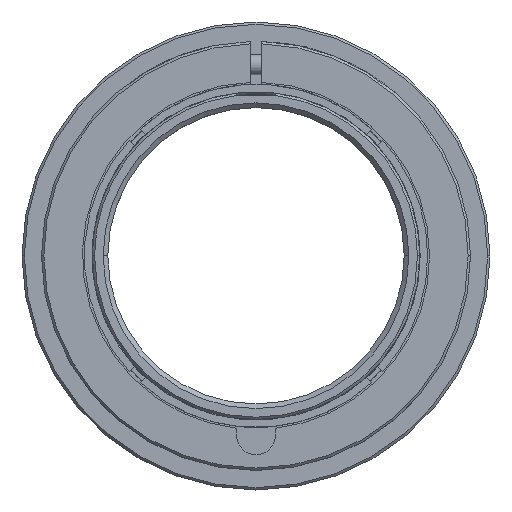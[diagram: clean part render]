
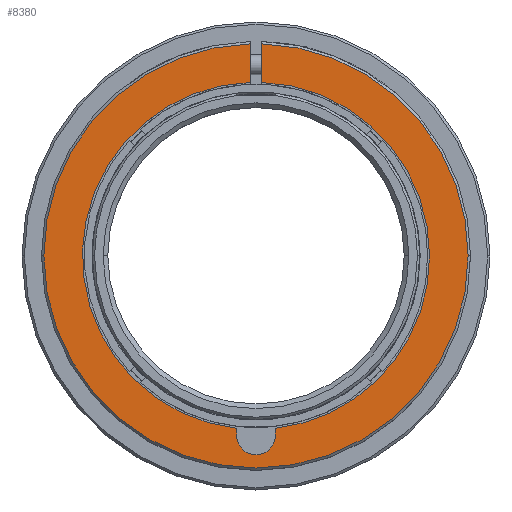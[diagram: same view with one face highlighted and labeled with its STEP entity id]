
A CAD part, top view. The second image highlights one B-rep face of the part: STEP entity #8380.
In plain terms, the highlighted planar face has unit normal (0, 0, 1).
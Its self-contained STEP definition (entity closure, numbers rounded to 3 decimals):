
#60 = CIRCLE ( 'NONE', #2003, 22.25 ) ;
#311 = EDGE_LOOP ( 'NONE', ( #7790, #535, #6888, #6495, #2809, #1469, #2949, #3918, #8506, #814, #8762 ) ) ;
#535 = ORIENTED_EDGE ( 'NONE', *, *, #5090, .F. ) ;
#592 = CARTESIAN_POINT ( 'NONE',  ( 2.5, -23., -9.991 ) ) ;
#615 = CARTESIAN_POINT ( 'NONE',  ( 0.75, 27.19, -9.991 ) ) ;
#629 = VECTOR ( 'NONE', #9377, 1000. ) ;
#806 = VERTEX_POINT ( 'NONE', #3841 ) ;
#814 = ORIENTED_EDGE ( 'NONE', *, *, #7334, .F. ) ;
#940 = EDGE_CURVE ( 'NONE', #9802, #8772, #6558, .T. ) ;
#995 = VERTEX_POINT ( 'NONE', #8912 ) ;
#1106 = CARTESIAN_POINT ( 'NONE',  ( 0., 0., -9.991 ) ) ;
#1124 = CIRCLE ( 'NONE', #3897, 2.5 ) ;
#1199 = CARTESIAN_POINT ( 'NONE',  ( -0.75, 27.19, -9.991 ) ) ;
#1213 = CARTESIAN_POINT ( 'NONE',  ( -27.2, 0., -9.991 ) ) ;
#1225 = DIRECTION ( 'NONE',  ( -1., 0., 0. ) ) ;
#1441 = CARTESIAN_POINT ( 'NONE',  ( 0., 0., -9.991 ) ) ;
#1469 = ORIENTED_EDGE ( 'NONE', *, *, #6097, .T. ) ;
#1927 = DIRECTION ( 'NONE',  ( 1., 0., 0. ) ) ;
#1968 = CARTESIAN_POINT ( 'NONE',  ( 2.5, -22.109, -9.991 ) ) ;
#2003 = AXIS2_PLACEMENT_3D ( 'NONE', #2023, #9667, #2071 ) ;
#2023 = CARTESIAN_POINT ( 'NONE',  ( 0., 0., -9.991 ) ) ;
#2071 = DIRECTION ( 'NONE',  ( 1., 0., 0. ) ) ;
#2247 = CARTESIAN_POINT ( 'NONE',  ( -0.75, 22.237, -9.991 ) ) ;
#2310 = AXIS2_PLACEMENT_3D ( 'NONE', #1441, #2413, #7684 ) ;
#2413 = DIRECTION ( 'NONE',  ( 0., 0., 1. ) ) ;
#2675 = AXIS2_PLACEMENT_3D ( 'NONE', #5242, #5876, #1225 ) ;
#2740 = AXIS2_PLACEMENT_3D ( 'NONE', #2984, #7494, #9815 ) ;
#2809 = ORIENTED_EDGE ( 'NONE', *, *, #8028, .T. ) ;
#2918 = LINE ( 'NONE', #10058, #4225 ) ;
#2949 = ORIENTED_EDGE ( 'NONE', *, *, #9794, .T. ) ;
#2984 = CARTESIAN_POINT ( 'NONE',  ( 0., 0., -9.991 ) ) ;
#3519 = CARTESIAN_POINT ( 'NONE',  ( 2.5, -23., -9.991 ) ) ;
#3644 = CIRCLE ( 'NONE', #2675, 27.2 ) ;
#3841 = CARTESIAN_POINT ( 'NONE',  ( -2.5, -22.109, -9.991 ) ) ;
#3876 = VERTEX_POINT ( 'NONE', #8209 ) ;
#3893 = DIRECTION ( 'NONE',  ( 0., -1., 0. ) ) ;
#3897 = AXIS2_PLACEMENT_3D ( 'NONE', #4727, #9289, #7750 ) ;
#3918 = ORIENTED_EDGE ( 'NONE', *, *, #5645, .F. ) ;
#3945 = VERTEX_POINT ( 'NONE', #1213 ) ;
#4225 = VECTOR ( 'NONE', #3893, 1000. ) ;
#4293 = VECTOR ( 'NONE', #6508, 1000. ) ;
#4727 = CARTESIAN_POINT ( 'NONE',  ( 0., -23., -9.991 ) ) ;
#4743 = LINE ( 'NONE', #7870, #7736 ) ;
#4894 = VERTEX_POINT ( 'NONE', #1199 ) ;
#5090 = EDGE_CURVE ( 'NONE', #806, #995, #2918, .T. ) ;
#5233 = CIRCLE ( 'NONE', #2310, 27.2 ) ;
#5242 = CARTESIAN_POINT ( 'NONE',  ( 0., 0., -9.991 ) ) ;
#5543 = EDGE_CURVE ( 'NONE', #5888, #8111, #7482, .T. ) ;
#5564 = PLANE ( 'NONE',  #5788 ) ;
#5645 = EDGE_CURVE ( 'NONE', #8111, #6385, #6247, .T. ) ;
#5788 = AXIS2_PLACEMENT_3D ( 'NONE', #8752, #8697, #6540 ) ;
#5876 = DIRECTION ( 'NONE',  ( 0., 0., 1. ) ) ;
#5888 = VERTEX_POINT ( 'NONE', #6474 ) ;
#6097 = EDGE_CURVE ( 'NONE', #3945, #3876, #5233, .T. ) ;
#6172 = EDGE_CURVE ( 'NONE', #9567, #806, #6409, .T. ) ;
#6247 = LINE ( 'NONE', #8075, #629 ) ;
#6385 = VERTEX_POINT ( 'NONE', #615 ) ;
#6409 = CIRCLE ( 'NONE', #7702, 22.25 ) ;
#6474 = CARTESIAN_POINT ( 'NONE',  ( 22.25, 0., -9.991 ) ) ;
#6495 = ORIENTED_EDGE ( 'NONE', *, *, #8227, .F. ) ;
#6508 = DIRECTION ( 'NONE',  ( 0., 1., 0. ) ) ;
#6540 = DIRECTION ( 'NONE',  ( -1., 0., 0. ) ) ;
#6558 = LINE ( 'NONE', #3519, #4293 ) ;
#6888 = ORIENTED_EDGE ( 'NONE', *, *, #6172, .F. ) ;
#7334 = EDGE_CURVE ( 'NONE', #8772, #5888, #60, .T. ) ;
#7482 = CIRCLE ( 'NONE', #9954, 22.25 ) ;
#7494 = DIRECTION ( 'NONE',  ( 0., 0., 1. ) ) ;
#7684 = DIRECTION ( 'NONE',  ( -1., 0., 0. ) ) ;
#7702 = AXIS2_PLACEMENT_3D ( 'NONE', #8815, #8767, #8915 ) ;
#7736 = VECTOR ( 'NONE', #10083, 1000. ) ;
#7750 = DIRECTION ( 'NONE',  ( 1., 0., 0. ) ) ;
#7790 = ORIENTED_EDGE ( 'NONE', *, *, #10001, .F. ) ;
#7870 = CARTESIAN_POINT ( 'NONE',  ( -0.75, 27.5, -9.991 ) ) ;
#8028 = EDGE_CURVE ( 'NONE', #4894, #3945, #3644, .T. ) ;
#8075 = CARTESIAN_POINT ( 'NONE',  ( 0.75, 27.5, -9.991 ) ) ;
#8111 = VERTEX_POINT ( 'NONE', #9929 ) ;
#8209 = CARTESIAN_POINT ( 'NONE',  ( 27.2, 0., -9.991 ) ) ;
#8227 = EDGE_CURVE ( 'NONE', #4894, #9567, #4743, .T. ) ;
#8380 = ADVANCED_FACE ( 'NONE', ( #9468 ), #5564, .F. ) ;
#8473 = CIRCLE ( 'NONE', #2740, 27.2 ) ;
#8506 = ORIENTED_EDGE ( 'NONE', *, *, #5543, .F. ) ;
#8697 = DIRECTION ( 'NONE',  ( 0., 0., -1. ) ) ;
#8752 = CARTESIAN_POINT ( 'NONE',  ( 0., 27.5, -9.991 ) ) ;
#8762 = ORIENTED_EDGE ( 'NONE', *, *, #940, .F. ) ;
#8767 = DIRECTION ( 'NONE',  ( 0., 0., 1. ) ) ;
#8772 = VERTEX_POINT ( 'NONE', #1968 ) ;
#8815 = CARTESIAN_POINT ( 'NONE',  ( 0., 0., -9.991 ) ) ;
#8912 = CARTESIAN_POINT ( 'NONE',  ( -2.5, -23., -9.991 ) ) ;
#8915 = DIRECTION ( 'NONE',  ( 1., 0., 0. ) ) ;
#9289 = DIRECTION ( 'NONE',  ( 0., 0., 1. ) ) ;
#9377 = DIRECTION ( 'NONE',  ( 0., 1., 0. ) ) ;
#9430 = DIRECTION ( 'NONE',  ( 0., 0., 1. ) ) ;
#9468 = FACE_OUTER_BOUND ( 'NONE', #311, .T. ) ;
#9567 = VERTEX_POINT ( 'NONE', #2247 ) ;
#9667 = DIRECTION ( 'NONE',  ( 0., 0., 1. ) ) ;
#9794 = EDGE_CURVE ( 'NONE', #3876, #6385, #8473, .T. ) ;
#9802 = VERTEX_POINT ( 'NONE', #592 ) ;
#9815 = DIRECTION ( 'NONE',  ( -1., 0., 0. ) ) ;
#9929 = CARTESIAN_POINT ( 'NONE',  ( 0.75, 22.237, -9.991 ) ) ;
#9954 = AXIS2_PLACEMENT_3D ( 'NONE', #1106, #9430, #1927 ) ;
#10001 = EDGE_CURVE ( 'NONE', #995, #9802, #1124, .T. ) ;
#10058 = CARTESIAN_POINT ( 'NONE',  ( -2.5, -23., -9.991 ) ) ;
#10083 = DIRECTION ( 'NONE',  ( 0., -1., 0. ) ) ;
